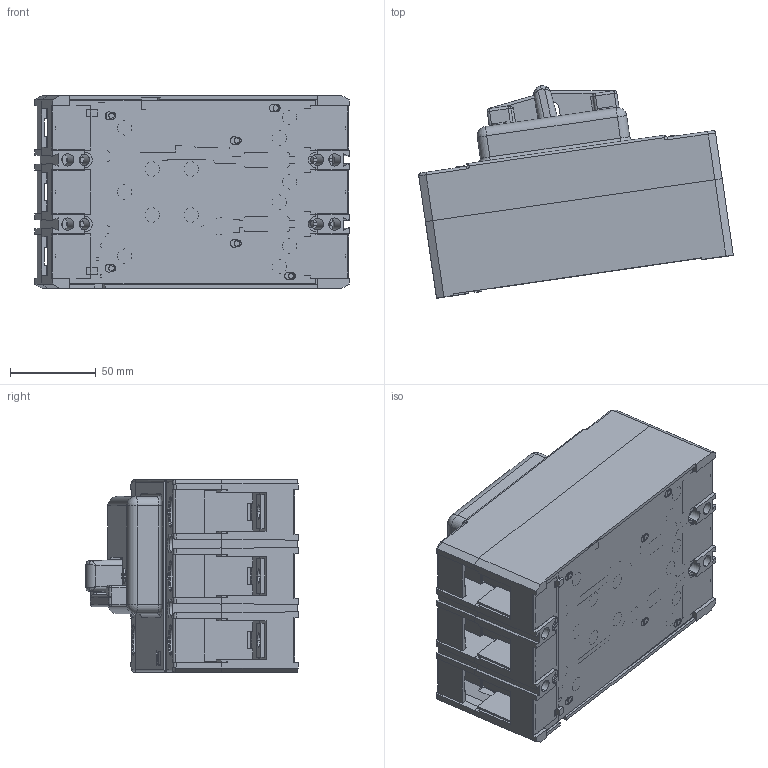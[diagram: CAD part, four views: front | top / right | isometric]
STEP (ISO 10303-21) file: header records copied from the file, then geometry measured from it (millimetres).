
FILE_DESCRIPTION (( 'STEP AP203' ), '1' );
FILE_NAME ('ÂÀ04 (ñ çàïåðàþùèì óñòðîéñòâîì).STEP', '2014-06-18T11:07:35', ( 'admin' ), ( 'Microsoft' ), 'SwSTEP 2.0', 'SolidWorks 2007', '' );
FILE_SCHEMA (( 'CONFIG_CONTROL_DESIGN' ));
Products named in the file (1): ÂÀ04 (ñ çàïåðàþùèì óñòðîéñòâîì)
Bounding box: 183.53 x 124 x 112.5 mm (x, y, z)
Surface area: 187885 mm2 (no closed solid volume)
Topology: 0 solids, 55 shells, 879 faces, 3693 edges, 2752 vertices
Faces by surface type: plane 506, cylinder 236, bspline 59, cone 38, sphere 30, torus 10
Entity records: 41640 total; most frequent: CARTESIAN_POINT 11919, DIRECTION 5885, ORIENTED_EDGE 5645, EDGE_CURVE 3675, VERTEX_POINT 2752, VECTOR 2617, LINE 2617, AXIS2_PLACEMENT_3D 1634
